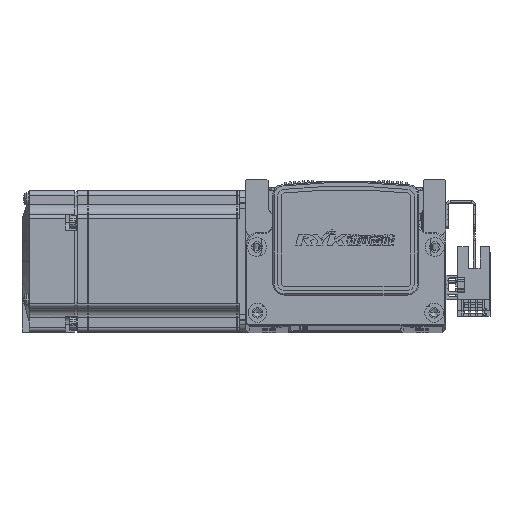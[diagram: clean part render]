
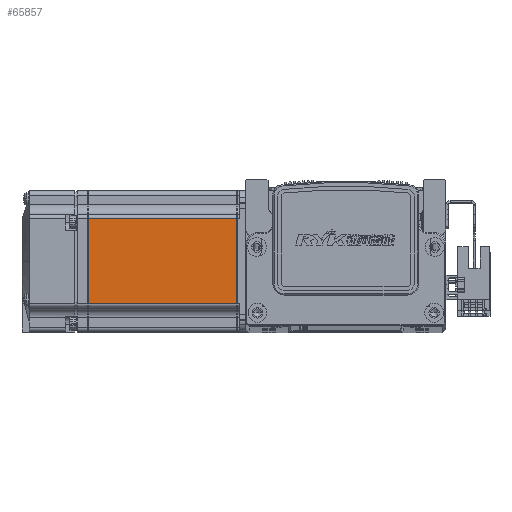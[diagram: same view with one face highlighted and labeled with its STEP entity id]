
A CAD part, top view. The second image highlights one B-rep face of the part: STEP entity #65857.
In plain terms, the highlighted planar face has unit normal (0, 0, 1) as drawn and (0, 0, -1) by its records, which use the part's own axes.
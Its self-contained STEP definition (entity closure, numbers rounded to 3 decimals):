
#934 = EDGE_CURVE ( 'NONE', #65927, #65846, #39571, .T. ) ;
#952 = EDGE_CURVE ( 'NONE', #65903, #65856, #39645, .T. ) ;
#971 = EDGE_CURVE ( 'NONE', #65846, #65903, #39653, .T. ) ;
#1008 = EDGE_CURVE ( 'NONE', #65856, #65927, #39720, .T. ) ;
#11633 = AXIS2_PLACEMENT_3D ( 'NONE', #58977, #58962, #59000 ) ;
#23764 = ORIENTED_EDGE ( 'NONE', *, *, #952, .T. ) ;
#23833 = ORIENTED_EDGE ( 'NONE', *, *, #934, .T. ) ;
#23843 = ORIENTED_EDGE ( 'NONE', *, *, #1008, .T. ) ;
#23940 = ORIENTED_EDGE ( 'NONE', *, *, #971, .T. ) ;
#34216 = CARTESIAN_POINT ( 'NONE',  ( -7.75, 25., -30. ) ) ;
#34243 = DIRECTION ( 'NONE',  ( 0., -1., 0. ) ) ;
#34267 = CARTESIAN_POINT ( 'NONE',  ( -70.95, 25., -30. ) ) ;
#34270 = DIRECTION ( 'NONE',  ( 0., 1., 0. ) ) ;
#34422 = CARTESIAN_POINT ( 'NONE',  ( -6.5, -18., -30. ) ) ;
#34430 = DIRECTION ( 'NONE',  ( -1., 0., 0. ) ) ;
#34681 = CARTESIAN_POINT ( 'NONE',  ( -6.5, 18., -30. ) ) ;
#34725 = DIRECTION ( 'NONE',  ( 1., 0., 0. ) ) ;
#39571 = LINE ( 'NONE', #34216, #39616 ) ;
#39616 = VECTOR ( 'NONE', #34243, 1000. ) ;
#39645 = LINE ( 'NONE', #34267, #39666 ) ;
#39653 = LINE ( 'NONE', #34422, #39667 ) ;
#39666 = VECTOR ( 'NONE', #34270, 1000. ) ;
#39667 = VECTOR ( 'NONE', #34430, 1000. ) ;
#39684 = VECTOR ( 'NONE', #34725, 1000. ) ;
#39720 = LINE ( 'NONE', #34681, #39684 ) ;
#47556 = EDGE_LOOP ( 'NONE', ( #23833, #23940, #23764, #23843 ) ) ;
#57577 = FACE_OUTER_BOUND ( 'NONE', #47556, .T. ) ;
#58907 = CARTESIAN_POINT ( 'NONE',  ( -7.75, -18., -30. ) ) ;
#58962 = DIRECTION ( 'NONE',  ( 0., 0., -1. ) ) ;
#58976 = PLANE ( 'NONE',  #11633 ) ;
#58977 = CARTESIAN_POINT ( 'NONE',  ( -6.5, 25., -30. ) ) ;
#59000 = DIRECTION ( 'NONE',  ( -1., 0., 0. ) ) ;
#59008 = CARTESIAN_POINT ( 'NONE',  ( -70.95, 18., -30. ) ) ;
#59101 = CARTESIAN_POINT ( 'NONE',  ( -70.95, -18., -30. ) ) ;
#59122 = CARTESIAN_POINT ( 'NONE',  ( -7.75, 18., -30. ) ) ;
#65846 = VERTEX_POINT ( 'NONE', #58907 ) ;
#65856 = VERTEX_POINT ( 'NONE', #59008 ) ;
#65857 = ADVANCED_FACE ( 'NONE', ( #57577 ), #58976, .T. ) ;
#65903 = VERTEX_POINT ( 'NONE', #59101 ) ;
#65927 = VERTEX_POINT ( 'NONE', #59122 ) ;
